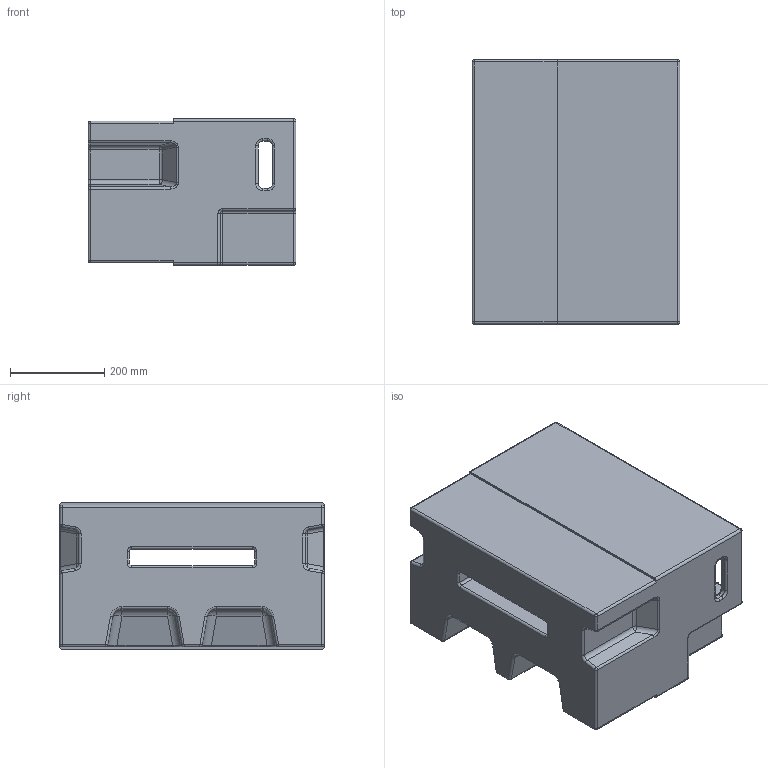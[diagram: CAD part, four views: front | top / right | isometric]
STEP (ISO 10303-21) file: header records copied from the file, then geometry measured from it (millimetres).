
FILE_DESCRIPTION((''),'2;1');
FILE_NAME('GLP-17347','2025-06-26T11:51:34',('LeovomKolke'),(''),'CREO PARAMETRIC BY PTC INC, 2024133','CREO PARAMETRIC BY PTC INC, 2024133','');
FILE_SCHEMA(('AUTOMOTIVE_DESIGN { 1 0 10303 214 1 1 1 1 }'));
Length unit declared in the file: millimetre
Products named in the file (1): GLP-17347
Bounding box: 440 x 560 x 310 mm (x, y, z)
Volume: 31242749.4 mm3; surface area: 1651179 mm2
Topology: 1 solids, 1 shells, 339 faces, 746 edges, 410 vertices
Faces by surface type: cylinder 166, plane 61, torus 56, sphere 42, bspline 14
Entity records: 15477 total; most frequent: CARTESIAN_POINT 3169, DIRECTION 1778, ORIENTED_EDGE 1492, PRESENTATION_STYLE_ASSIGNMENT 959, STYLED_ITEM 826, CURVE_STYLE 755, EDGE_CURVE 746, AXIS2_PLACEMENT_3D 714
